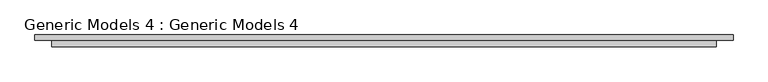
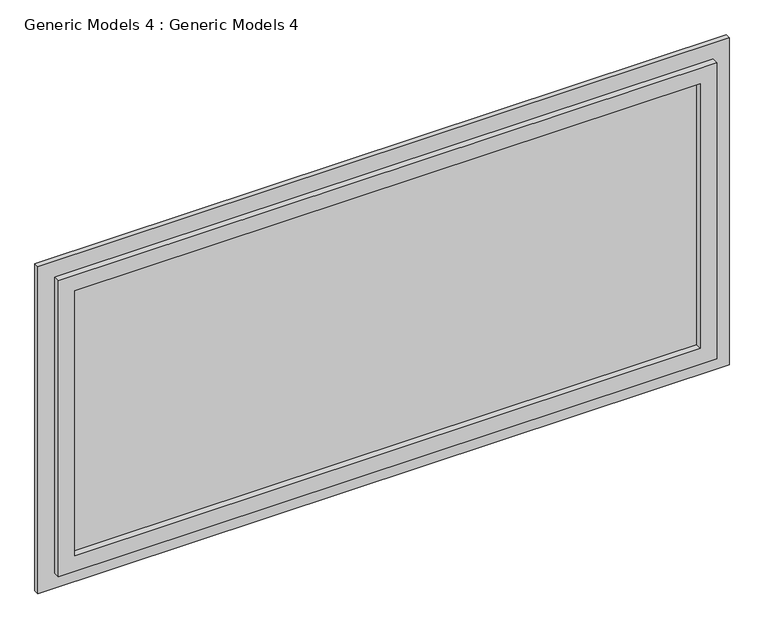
"""IFC4 building model written with IfcOpenShell, lengths in millimetres: proxy geometry, Generic Models 4 : Generic Models 4."""

from ifc_helpers import new_model, si_unit, frame, origin, place, context, project, spatial, polyline, outline, extrude, source, transform, mapped, element, save


def generic_models_4_generic_models_4_595c3268(model_context):
    return source(origin(), model_context, "Body", "SweptSolid", [
        extrude(outline(polyline([(2501.8449565, -5829.4040425), (4601.8449565, -5829.4040425), (4601.8449565, -5845.4040425), (2501.8449565, -5845.4040425), (2501.8449565, -5829.4040425)])), frame((0.0, 0.0, 850.0), z_axis=(0.0, 0.0, 1.0), x_axis=(1.0, 0.0, 0.0)), (0.0, 0.0, 1.0), 1050.0),
        extrude(outline(polyline([(900.0, 4551.8449565), (1850.0, 4551.8449565), (1850.0, 2551.8449565), (900.0, 2551.8449565), (900.0, 4551.8449565)]), holes=[polyline([(1800.0, 4501.8449565), (950.0, 4501.8449565), (950.0, 2601.8449565), (1800.0, 2601.8449565), (1800.0, 4501.8449565)])]), frame((0.0, -5865.4040425, 0.0), z_axis=(0.0, 1.0, 0.0), x_axis=(0.0, 0.0, 1.0)), (0.0, 0.0, 1.0), 20.0),
    ])


if __name__ == "__main__":
    model = new_model("IFC4")
    model_context = context("Model", 3, world=origin())
    ifc_project = project(units=[si_unit("LENGTHUNIT", "METRE", prefix="MILLI")], contexts=[model_context])
    site = spatial("IfcSite", under=ifc_project)
    building = spatial("IfcBuilding", under=site)
    placement = place(None, origin())
    generic_models_4_generic_models_4_shape = generic_models_4_generic_models_4_595c3268(model_context)
    element("IfcBuildingElementProxy", 1, Name="Generic Models 4 : Generic Models 4", ObjectType="Generic Models 4 : Generic Models 4", at=placement, inside=building, context=model_context, shape_type="MappedRepresentation", body=[
        mapped(generic_models_4_generic_models_4_shape, transform((0.0, 0.0, 0.0), x_axis=(1.0, 0.0, 0.0), y_axis=(0.0, 1.0, 0.0), z_axis=(0.0, 0.0, 1.0))),
    ])
    save(model, "model.ifc")
